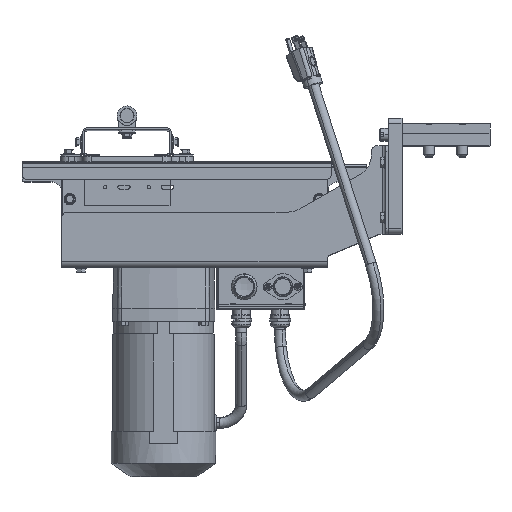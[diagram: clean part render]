
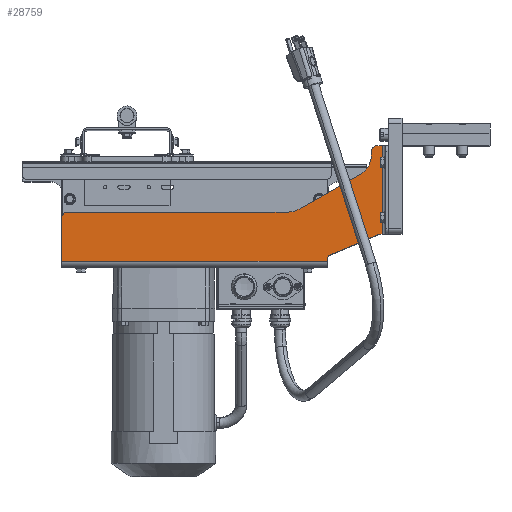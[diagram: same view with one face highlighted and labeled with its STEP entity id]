
A CAD part, top view. The second image highlights one B-rep face of the part: STEP entity #28759.
In plain terms, the highlighted planar face has unit normal (0, 0, 1).
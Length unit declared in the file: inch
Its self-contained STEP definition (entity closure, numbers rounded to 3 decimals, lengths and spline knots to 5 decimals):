
#746 = VECTOR ( 'NONE', #21469, 39.37008 ) ;
#1416 = DIRECTION ( 'NONE',  ( 0., 0., -1. ) ) ;
#1943 = EDGE_CURVE ( 'NONE', #10585, #2168, #43946, .T. ) ;
#2168 = VERTEX_POINT ( 'NONE', #39186 ) ;
#2205 = AXIS2_PLACEMENT_3D ( 'NONE', #48783, #22153, #53252 ) ;
#2476 = DIRECTION ( 'NONE',  ( 0., -1., 0. ) ) ;
#2914 = DIRECTION ( 'NONE',  ( 0., -1., 0. ) ) ;
#4295 = CARTESIAN_POINT ( 'NONE',  ( 8.25, 5.13, 4.12 ) ) ;
#4408 = VERTEX_POINT ( 'NONE', #42496 ) ;
#5310 = DIRECTION ( 'NONE',  ( 1., 0., 0. ) ) ;
#5388 = VERTEX_POINT ( 'NONE', #23105 ) ;
#5776 = VECTOR ( 'NONE', #21600, 39.37008 ) ;
#6156 = ORIENTED_EDGE ( 'NONE', *, *, #31337, .F. ) ;
#6496 = VERTEX_POINT ( 'NONE', #8214 ) ;
#6656 = VECTOR ( 'NONE', #2476, 39.37008 ) ;
#7093 = EDGE_CURVE ( 'NONE', #29080, #20594, #44544, .T. ) ;
#7751 = VERTEX_POINT ( 'NONE', #55305 ) ;
#8214 = CARTESIAN_POINT ( 'NONE',  ( 6., 0.21401, 4.12 ) ) ;
#8354 = ORIENTED_EDGE ( 'NONE', *, *, #39757, .F. ) ;
#8573 = CARTESIAN_POINT ( 'NONE',  ( 8.5, 5.38, 4.12 ) ) ;
#8574 = ORIENTED_EDGE ( 'NONE', *, *, #55843, .F. ) ;
#8759 = DIRECTION ( 'NONE',  ( 0., 1., 0. ) ) ;
#9414 = PLANE ( 'NONE',  #18177 ) ;
#9457 = VERTEX_POINT ( 'NONE', #35675 ) ;
#9601 = DIRECTION ( 'NONE',  ( 0., 0., -1. ) ) ;
#9868 = VERTEX_POINT ( 'NONE', #17771 ) ;
#10585 = VERTEX_POINT ( 'NONE', #23321 ) ;
#11451 = CARTESIAN_POINT ( 'NONE',  ( 8.5, 5.38, 4.12 ) ) ;
#11466 = DIRECTION ( 'NONE',  ( 0., 0., 1. ) ) ;
#11779 = CARTESIAN_POINT ( 'NONE',  ( -6., 5.38, 4.12 ) ) ;
#11801 = LINE ( 'NONE', #21284, #746 ) ;
#11941 = CIRCLE ( 'NONE', #50397, 0.25 ) ;
#12488 = ORIENTED_EDGE ( 'NONE', *, *, #54586, .T. ) ;
#13121 = EDGE_CURVE ( 'NONE', #2168, #39338, #54971, .T. ) ;
#13552 = CARTESIAN_POINT ( 'NONE',  ( 6., 0.38, 4.12 ) ) ;
#13702 = EDGE_CURVE ( 'NONE', #20594, #43379, #52117, .T. ) ;
#14425 = LINE ( 'NONE', #19889, #24811 ) ;
#15263 = DIRECTION ( 'NONE',  ( 0., 1., 0. ) ) ;
#15279 = DIRECTION ( 'NONE',  ( -0.868, -0.496, 0. ) ) ;
#15324 = DIRECTION ( 'NONE',  ( 0., 0., 1. ) ) ;
#15655 = LINE ( 'NONE', #57053, #37905 ) ;
#15912 = AXIS2_PLACEMENT_3D ( 'NONE', #27992, #1416, #32503 ) ;
#16359 = CARTESIAN_POINT ( 'NONE',  ( 8., 4.96032, 4.12 ) ) ;
#17248 = CARTESIAN_POINT ( 'NONE',  ( 6.15299, 0.44442, 4.12 ) ) ;
#17771 = CARTESIAN_POINT ( 'NONE',  ( -6., 0.145, 4.12 ) ) ;
#18042 = LINE ( 'NONE', #51908, #40311 ) ;
#18138 = ORIENTED_EDGE ( 'NONE', *, *, #13121, .F. ) ;
#18177 = AXIS2_PLACEMENT_3D ( 'NONE', #36186, #9601, #40670 ) ;
#18687 = VECTOR ( 'NONE', #2914, 39.37008 ) ;
#19120 = EDGE_CURVE ( 'NONE', #52865, #10585, #11801, .T. ) ;
#19539 = EDGE_CURVE ( 'NONE', #6496, #9457, #18042, .T. ) ;
#19889 = CARTESIAN_POINT ( 'NONE',  ( 4.5, 2.38, 4.12 ) ) ;
#20075 = CARTESIAN_POINT ( 'NONE',  ( 8., 5.38, 4.12 ) ) ;
#20126 = DIRECTION ( 'NONE',  ( 0., 0., 1. ) ) ;
#20594 = VERTEX_POINT ( 'NONE', #25192 ) ;
#20900 = VECTOR ( 'NONE', #5310, 39.37008 ) ;
#21284 = CARTESIAN_POINT ( 'NONE',  ( 8.5, 1.38, 4.12 ) ) ;
#21469 = DIRECTION ( 'NONE',  ( -1., 0., 0. ) ) ;
#21497 = VECTOR ( 'NONE', #15263, 39.37008 ) ;
#21600 = DIRECTION ( 'NONE',  ( 1., 0., 0. ) ) ;
#22153 = DIRECTION ( 'NONE',  ( 0., 0., 1. ) ) ;
#23105 = CARTESIAN_POINT ( 'NONE',  ( 7.49614, 4.09208, 4.12 ) ) ;
#23321 = CARTESIAN_POINT ( 'NONE',  ( 8.42549, 1.38, 4.12 ) ) ;
#24175 = ORIENTED_EDGE ( 'NONE', *, *, #7093, .F. ) ;
#24202 = ORIENTED_EDGE ( 'NONE', *, *, #51743, .T. ) ;
#24811 = VECTOR ( 'NONE', #15279, 39.37008 ) ;
#24856 = AXIS2_PLACEMENT_3D ( 'NONE', #41944, #15324, #46399 ) ;
#24944 = EDGE_CURVE ( 'NONE', #52640, #52865, #30539, .T. ) ;
#25192 = CARTESIAN_POINT ( 'NONE',  ( 4.23444, 2.38, 4.12 ) ) ;
#26491 = ORIENTED_EDGE ( 'NONE', *, *, #30124, .F. ) ;
#27348 = EDGE_CURVE ( 'NONE', #4408, #29080, #29615, .T. ) ;
#27433 = CARTESIAN_POINT ( 'NONE',  ( -6., 2.38, 4.12 ) ) ;
#27992 = CARTESIAN_POINT ( 'NONE',  ( -5.75, 2.13, 4.12 ) ) ;
#28759 = ADVANCED_FACE ( 'NONE', ( #33038 ), #9414, .F. ) ;
#29080 = VERTEX_POINT ( 'NONE', #56764 ) ;
#29399 = LINE ( 'NONE', #43778, #5776 ) ;
#29527 = CARTESIAN_POINT ( 'NONE',  ( 4.73057, 2.51176, 4.12 ) ) ;
#29615 = CIRCLE ( 'NONE', #15912, 0.25 ) ;
#30124 = EDGE_CURVE ( 'NONE', #7751, #52640, #29399, .T. ) ;
#30364 = AXIS2_PLACEMENT_3D ( 'NONE', #38077, #11466, #42554 ) ;
#30539 = LINE ( 'NONE', #11451, #18687 ) ;
#31109 = AXIS2_PLACEMENT_3D ( 'NONE', #46771, #20126, #51213 ) ;
#31337 = EDGE_CURVE ( 'NONE', #36470, #56227, #55595, .T. ) ;
#31656 = LINE ( 'NONE', #11779, #6656 ) ;
#32503 = DIRECTION ( 'NONE',  ( 0., 1., 0. ) ) ;
#33038 = FACE_OUTER_BOUND ( 'NONE', #37868, .T. ) ;
#35360 = DIRECTION ( 'NONE',  ( 0., 0., -1. ) ) ;
#35675 = CARTESIAN_POINT ( 'NONE',  ( 6., 0.145, 4.12 ) ) ;
#36186 = CARTESIAN_POINT ( 'NONE',  ( -6., 5.38, 4.12 ) ) ;
#36378 = CIRCLE ( 'NONE', #30364, 0.25 ) ;
#36470 = VERTEX_POINT ( 'NONE', #16359 ) ;
#36618 = CIRCLE ( 'NONE', #31109, 1. ) ;
#37167 = ORIENTED_EDGE ( 'NONE', *, *, #44303, .F. ) ;
#37868 = EDGE_LOOP ( 'NONE', ( #6156, #8354, #55310, #49457, #24175, #45481, #12488, #24202, #41466, #8574, #18138, #41158, #38746, #57633, #26491, #37167 ) ) ;
#37905 = VECTOR ( 'NONE', #48309, 39.37008 ) ;
#38077 = CARTESIAN_POINT ( 'NONE',  ( 6.25, 0.21401, 4.12 ) ) ;
#38746 = ORIENTED_EDGE ( 'NONE', *, *, #19120, .F. ) ;
#39186 = CARTESIAN_POINT ( 'NONE',  ( 8.32847, 1.36041, 4.12 ) ) ;
#39338 = VERTEX_POINT ( 'NONE', #17248 ) ;
#39757 = EDGE_CURVE ( 'NONE', #5388, #36470, #36618, .T. ) ;
#40311 = VECTOR ( 'NONE', #47462, 39.37008 ) ;
#40670 = DIRECTION ( 'NONE',  ( 0., 1., 0. ) ) ;
#41158 = ORIENTED_EDGE ( 'NONE', *, *, #1943, .F. ) ;
#41369 = CARTESIAN_POINT ( 'NONE',  ( 8.5, 1.38, 4.12 ) ) ;
#41466 = ORIENTED_EDGE ( 'NONE', *, *, #19539, .F. ) ;
#41944 = CARTESIAN_POINT ( 'NONE',  ( 8.42549, 1.13, 4.12 ) ) ;
#42496 = CARTESIAN_POINT ( 'NONE',  ( -6., 2.13, 4.12 ) ) ;
#42554 = DIRECTION ( 'NONE',  ( 0., 1., 0. ) ) ;
#43184 = VECTOR ( 'NONE', #53536, 39.37008 ) ;
#43379 = VERTEX_POINT ( 'NONE', #29527 ) ;
#43778 = CARTESIAN_POINT ( 'NONE',  ( -6., 5.38, 4.12 ) ) ;
#43946 = CIRCLE ( 'NONE', #24856, 0.25 ) ;
#44303 = EDGE_CURVE ( 'NONE', #56227, #7751, #11941, .T. ) ;
#44544 = LINE ( 'NONE', #27433, #20900 ) ;
#45398 = CARTESIAN_POINT ( 'NONE',  ( 8., 5.13, 4.12 ) ) ;
#45481 = ORIENTED_EDGE ( 'NONE', *, *, #27348, .F. ) ;
#46399 = DIRECTION ( 'NONE',  ( 0., 1., 0. ) ) ;
#46771 = CARTESIAN_POINT ( 'NONE',  ( 7., 4.96032, 4.12 ) ) ;
#47462 = DIRECTION ( 'NONE',  ( 0., -1., 0. ) ) ;
#48309 = DIRECTION ( 'NONE',  ( 1., 0., 0. ) ) ;
#48783 = CARTESIAN_POINT ( 'NONE',  ( 4.23444, 3.38, 4.12 ) ) ;
#49457 = ORIENTED_EDGE ( 'NONE', *, *, #13702, .F. ) ;
#50269 = EDGE_CURVE ( 'NONE', #5388, #43379, #14425, .T. ) ;
#50397 = AXIS2_PLACEMENT_3D ( 'NONE', #4295, #35360, #8759 ) ;
#51213 = DIRECTION ( 'NONE',  ( 0., 1., 0. ) ) ;
#51743 = EDGE_CURVE ( 'NONE', #9868, #9457, #15655, .T. ) ;
#51908 = CARTESIAN_POINT ( 'NONE',  ( 6., -0.12, 4.12 ) ) ;
#52117 = CIRCLE ( 'NONE', #2205, 1. ) ;
#52640 = VERTEX_POINT ( 'NONE', #8573 ) ;
#52865 = VERTEX_POINT ( 'NONE', #41369 ) ;
#53252 = DIRECTION ( 'NONE',  ( 0., 1., 0. ) ) ;
#53536 = DIRECTION ( 'NONE',  ( -0.922, -0.388, 0. ) ) ;
#54586 = EDGE_CURVE ( 'NONE', #4408, #9868, #31656, .T. ) ;
#54971 = LINE ( 'NONE', #13552, #43184 ) ;
#55305 = CARTESIAN_POINT ( 'NONE',  ( 8.25, 5.38, 4.12 ) ) ;
#55310 = ORIENTED_EDGE ( 'NONE', *, *, #50269, .T. ) ;
#55595 = LINE ( 'NONE', #20075, #21497 ) ;
#55843 = EDGE_CURVE ( 'NONE', #39338, #6496, #36378, .T. ) ;
#56227 = VERTEX_POINT ( 'NONE', #45398 ) ;
#56764 = CARTESIAN_POINT ( 'NONE',  ( -5.75, 2.38, 4.12 ) ) ;
#57053 = CARTESIAN_POINT ( 'NONE',  ( -6., 0.145, 4.12 ) ) ;
#57633 = ORIENTED_EDGE ( 'NONE', *, *, #24944, .F. ) ;
